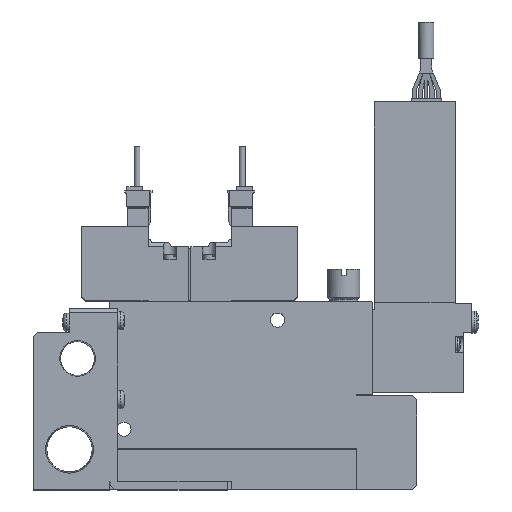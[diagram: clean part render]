
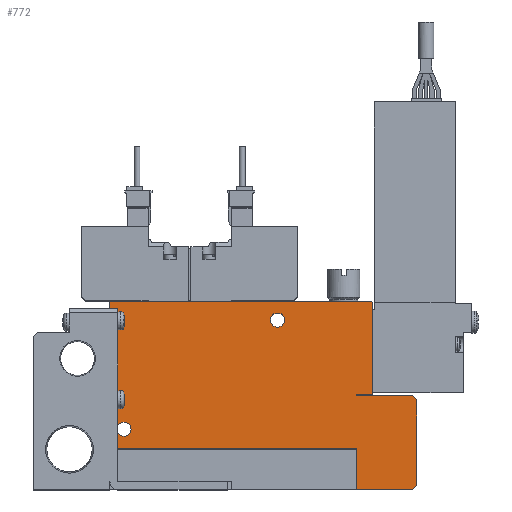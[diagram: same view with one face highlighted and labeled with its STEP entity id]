
A CAD part, top view. The second image highlights one B-rep face of the part: STEP entity #772.
In plain terms, the highlighted planar face has unit normal (0, 0, 1).
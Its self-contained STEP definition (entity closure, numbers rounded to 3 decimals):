
#772=ADVANCED_FACE('',(#1787,#1788,#1789),#1790,.F.);
#1787=FACE_OUTER_BOUND('',#3117,.T.);
#1788=FACE_BOUND('',#3118,.T.);
#1789=FACE_BOUND('',#3119,.T.);
#1790=PLANE('',#3120);
#3117=EDGE_LOOP('',(#6693,#6694,#6695,#6696,#6697,#6698,#6699,#6700,#6701,#6702,#6703,#6704,#6705,#6706));
#3118=EDGE_LOOP('',(#6707));
#3119=EDGE_LOOP('',(#6708));
#3120=AXIS2_PLACEMENT_3D('',#6709,#6710,#6711);
#6693=ORIENTED_EDGE('',*,*,#9051,.T.);
#6694=ORIENTED_EDGE('',*,*,#9096,.F.);
#6695=ORIENTED_EDGE('',*,*,#9081,.F.);
#6696=ORIENTED_EDGE('',*,*,#9162,.T.);
#6697=ORIENTED_EDGE('',*,*,#9141,.T.);
#6698=ORIENTED_EDGE('',*,*,#9138,.T.);
#6699=ORIENTED_EDGE('',*,*,#9067,.T.);
#6700=ORIENTED_EDGE('',*,*,#9136,.T.);
#6701=ORIENTED_EDGE('',*,*,#9133,.T.);
#6702=ORIENTED_EDGE('',*,*,#9110,.T.);
#6703=ORIENTED_EDGE('',*,*,#9107,.T.);
#6704=ORIENTED_EDGE('',*,*,#9113,.T.);
#6705=ORIENTED_EDGE('',*,*,#9101,.T.);
#6706=ORIENTED_EDGE('',*,*,#9144,.T.);
#6707=ORIENTED_EDGE('',*,*,#9163,.F.);
#6708=ORIENTED_EDGE('',*,*,#9088,.F.);
#6709=CARTESIAN_POINT('',(0.0,0.0,5.0));
#6710=DIRECTION('',(0.0,0.0,-1.0));
#6711=DIRECTION('',(0.0,-1.0,0.0));
#9051=EDGE_CURVE('',#11051,#11049,#11052,.T.);
#9067=EDGE_CURVE('',#11083,#11081,#11084,.T.);
#9081=EDGE_CURVE('',#11106,#11108,#11109,.T.);
#9088=EDGE_CURVE('',#11121,#11121,#11122,.T.);
#9096=EDGE_CURVE('',#11108,#11049,#11134,.T.);
#9101=EDGE_CURVE('',#11142,#11140,#11143,.T.);
#9107=EDGE_CURVE('',#11153,#11151,#11154,.T.);
#9110=EDGE_CURVE('',#11158,#11153,#11159,.T.);
#9113=EDGE_CURVE('',#11151,#11142,#11162,.T.);
#9133=EDGE_CURVE('',#11199,#11158,#11200,.T.);
#9136=EDGE_CURVE('',#11081,#11199,#11203,.T.);
#9138=EDGE_CURVE('',#11206,#11083,#11207,.T.);
#9141=EDGE_CURVE('',#11211,#11206,#11212,.T.);
#9144=EDGE_CURVE('',#11140,#11051,#11215,.T.);
#9162=EDGE_CURVE('',#11106,#11211,#11240,.T.);
#9163=EDGE_CURVE('',#11241,#11241,#11242,.T.);
#11049=VERTEX_POINT('',#14328);
#11051=VERTEX_POINT('',#14331);
#11052=LINE('',#14332,#14333);
#11081=VERTEX_POINT('',#14376);
#11083=VERTEX_POINT('',#14379);
#11084=LINE('',#14380,#14381);
#11106=VERTEX_POINT('',#14411);
#11108=VERTEX_POINT('',#14414);
#11109=LINE('',#14415,#14416);
#11121=VERTEX_POINT('',#14431);
#11122=CIRCLE('',#14432,1.75);
#11134=LINE('',#14450,#14451);
#11140=VERTEX_POINT('',#14460);
#11142=VERTEX_POINT('',#14463);
#11143=LINE('',#14464,#14465);
#11151=VERTEX_POINT('',#14477);
#11153=VERTEX_POINT('',#14480);
#11154=LINE('',#14481,#14482);
#11158=VERTEX_POINT('',#14488);
#11159=LINE('',#14489,#14490);
#11162=LINE('',#14495,#14496);
#11199=VERTEX_POINT('',#14546);
#11200=LINE('',#14547,#14548);
#11203=LINE('',#14553,#14554);
#11206=VERTEX_POINT('',#14558);
#11207=LINE('',#14559,#14560);
#11211=VERTEX_POINT('',#14566);
#11212=LINE('',#14567,#14568);
#11215=LINE('',#14573,#14574);
#11240=LINE('',#14610,#14611);
#11241=VERTEX_POINT('',#14612);
#11242=CIRCLE('',#14613,1.75);
#14328=CARTESIAN_POINT('',(0.0,10.1,5.0));
#14331=CARTESIAN_POINT('',(0.0,46.4,5.0));
#14332=CARTESIAN_POINT('',(0.0,46.4,5.0));
#14333=VECTOR('',#17449,1.0);
#14376=CARTESIAN_POINT('',(75.0,23.25,5.0));
#14379=CARTESIAN_POINT('',(76.0,22.25,5.0));
#14380=CARTESIAN_POINT('',(76.0,22.25,5.0));
#14381=VECTOR('',#17465,1.0);
#14411=CARTESIAN_POINT('',(61.1,0.0,5.0));
#14414=CARTESIAN_POINT('',(61.1,10.1,5.0));
#14415=CARTESIAN_POINT('',(61.1,0.0,5.0));
#14416=VECTOR('',#17487,1.0);
#14431=CARTESIAN_POINT('',(43.25,42.0,5.0));
#14432=AXIS2_PLACEMENT_3D('',#17500,#17501,#17502);
#14450=CARTESIAN_POINT('',(61.1,10.1,5.0));
#14451=VECTOR('',#17512,1.0);
#14460=CARTESIAN_POINT('',(0.2,46.6,5.0));
#14463=CARTESIAN_POINT('',(64.8,46.6,5.0));
#14464=CARTESIAN_POINT('',(64.8,46.6,5.0));
#14465=VECTOR('',#17517,1.0);
#14477=CARTESIAN_POINT('',(65.0,46.4,5.0));
#14480=CARTESIAN_POINT('',(65.0,23.5,5.0));
#14481=CARTESIAN_POINT('',(65.0,23.5,5.0));
#14482=VECTOR('',#17523,1.0);
#14488=CARTESIAN_POINT('',(61.0,23.5,5.0));
#14489=CARTESIAN_POINT('',(61.0,23.5,5.0));
#14490=VECTOR('',#17526,1.0);
#14495=CARTESIAN_POINT('',(65.0,46.4,5.0));
#14496=VECTOR('',#17529,1.0);
#14546=CARTESIAN_POINT('',(61.0,23.25,5.0));
#14547=CARTESIAN_POINT('',(61.0,23.25,5.0));
#14548=VECTOR('',#17561,1.0);
#14553=CARTESIAN_POINT('',(75.0,23.25,5.0));
#14554=VECTOR('',#17564,1.0);
#14558=CARTESIAN_POINT('',(76.0,1.0,5.0));
#14559=CARTESIAN_POINT('',(76.0,1.0,5.0));
#14560=VECTOR('',#17566,1.0);
#14566=CARTESIAN_POINT('',(75.0,0.0,5.0));
#14567=CARTESIAN_POINT('',(75.0,0.0,5.0));
#14568=VECTOR('',#17569,1.0);
#14573=CARTESIAN_POINT('',(0.2,46.6,5.0));
#14574=VECTOR('',#17572,1.0);
#14610=CARTESIAN_POINT('',(0.0,0.0,5.0));
#14611=VECTOR('',#17602,1.0);
#14612=CARTESIAN_POINT('',(5.25,15.0,5.0));
#14613=AXIS2_PLACEMENT_3D('',#17603,#17604,#17605);
#17449=DIRECTION('',(0.0,-1.0,0.0));
#17465=DIRECTION('',(-0.707,0.707,0.0));
#17487=DIRECTION('',(0.0,1.0,0.0));
#17500=CARTESIAN_POINT('',(41.5,42.0,5.0));
#17501=DIRECTION('',(0.0,0.0,1.0));
#17502=DIRECTION('',(1.0,0.0,0.0));
#17512=DIRECTION('',(-1.0,0.0,0.0));
#17517=DIRECTION('',(-1.0,0.0,0.0));
#17523=DIRECTION('',(0.0,1.0,0.0));
#17526=DIRECTION('',(1.0,0.,0.0));
#17529=DIRECTION('',(-0.707,0.707,0.0));
#17561=DIRECTION('',(0.0,1.0,0.0));
#17564=DIRECTION('',(-1.0,0.0,0.0));
#17566=DIRECTION('',(0.0,1.0,0.0));
#17569=DIRECTION('',(0.707,0.707,0.0));
#17572=DIRECTION('',(-0.707,-0.707,0.0));
#17602=DIRECTION('',(1.0,0.0,0.0));
#17603=CARTESIAN_POINT('',(3.5,15.0,5.0));
#17604=DIRECTION('',(0.0,0.0,1.0));
#17605=DIRECTION('',(1.0,0.0,0.0));
